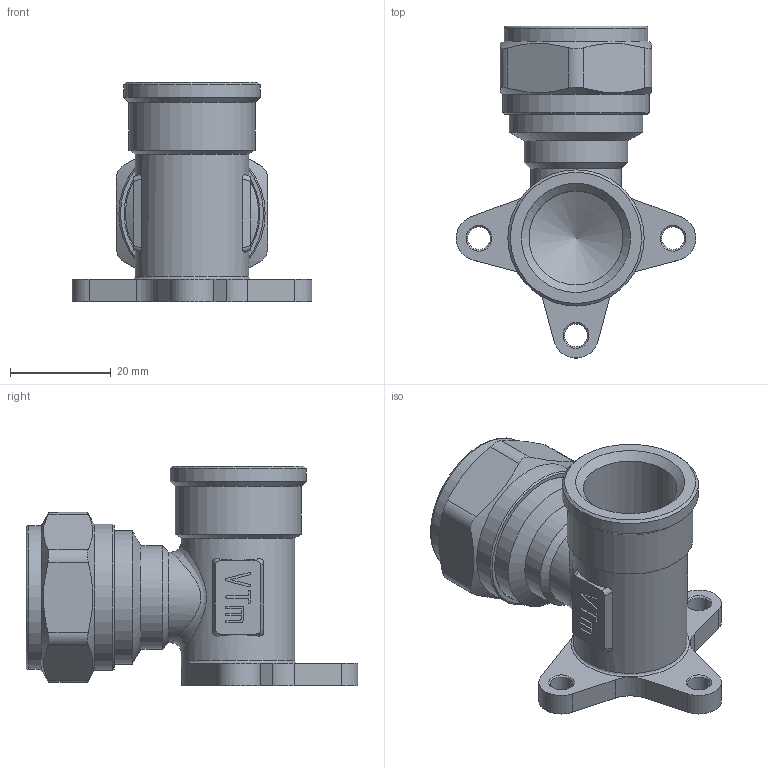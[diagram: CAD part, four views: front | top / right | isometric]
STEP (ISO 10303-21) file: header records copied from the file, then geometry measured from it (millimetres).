
FILE_DESCRIPTION(('STEP AP203'), '1');
FILE_NAME('VTm.354.N.002004', '', ('UNSPECIFIED'), ('UNSPECIFIED'), 'C3D Converter', 'C3D Toolkit', '');
FILE_SCHEMA(('CONFIG_CONTROL_DESIGN'));
Length unit declared in the file: millimetre
Products named in the file (1): ВР.302635.116.000 СБ
Bounding box: 47.49 x 65.76 x 43.5 mm (x, y, z)
Volume: 22212.5 mm3; surface area: 15858.7 mm2
Topology: 1 solids, 1 shells, 459 faces, 1259 edges, 829 vertices
Faces by surface type: extrusion 195, plane 161, cylinder 51, torus 28, cone 23, bspline 1
Full cylindrical faces by diameter (mm): 4.5 x3, 11.5 x1, 15.8 x4, 15.9 x1, 18 x1, 18.632 x1, 20.1 x1, 20.2 x1, 20.5 x1, 20.7 x1, 22.5 x1, 24.118 x1, 25 x1, 26.441 x1, 27 x1, 28.5 x1, 29 x1
Entity records: 16749 total; most frequent: CARTESIAN_POINT 6184, ORIENTED_EDGE 2398, DIRECTION 1552, EDGE_CURVE 1199, VERTEX_POINT 828, VECTOR 762, B_SPLINE_CURVE_WITH_KNOTS 662, LINE 567
